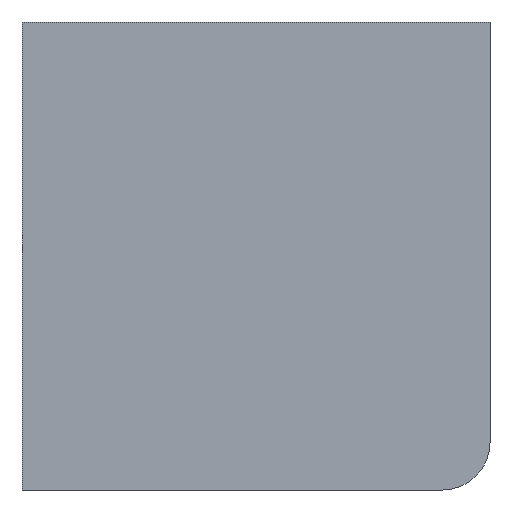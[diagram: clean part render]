
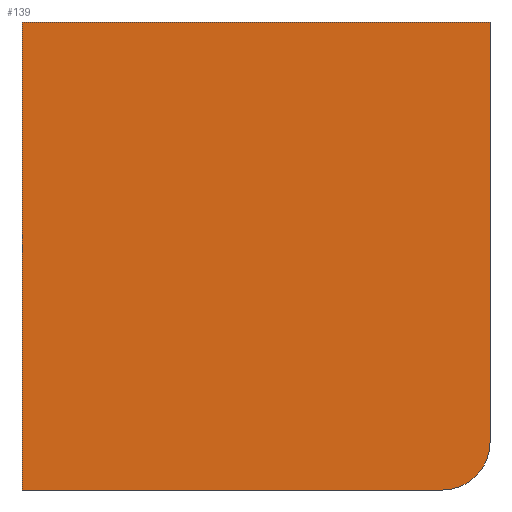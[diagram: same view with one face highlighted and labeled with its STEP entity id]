
A CAD part, front view. The second image highlights one B-rep face of the part: STEP entity #139.
In plain terms, the highlighted planar face has unit normal (0, -1, 0).
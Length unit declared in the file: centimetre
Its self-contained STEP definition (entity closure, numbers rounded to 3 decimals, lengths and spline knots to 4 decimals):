
#27 = CARTESIAN_POINT ( 'NONE',  ( 897.8581, 0., 0. ) ) ;
#46 = EDGE_CURVE ( 'NONE', #1322, #154, #1020, .T. ) ;
#68 = VERTEX_POINT ( 'NONE', #691 ) ;
#84 = DIRECTION ( 'NONE',  ( 0., 0., -1. ) ) ;
#124 = EDGE_CURVE ( 'NONE', #509, #68, #839, .T. ) ;
#139 = ADVANCED_FACE ( 'NONE', ( #1150 ), #849, .F. ) ;
#154 = VERTEX_POINT ( 'NONE', #27 ) ;
#227 = CARTESIAN_POINT ( 'NONE',  ( 0., 0., 1000. ) ) ;
#277 = DIRECTION ( 'NONE',  ( 0., -1., 0. ) ) ;
#366 = EDGE_LOOP ( 'NONE', ( #785, #979, #934, #416, #837 ) ) ;
#405 = VECTOR ( 'NONE', #883, 100. ) ;
#416 = ORIENTED_EDGE ( 'NONE', *, *, #124, .F. ) ;
#417 = DIRECTION ( 'NONE',  ( 0., 0., 1. ) ) ;
#431 = EDGE_CURVE ( 'NONE', #509, #1322, #1012, .T. ) ;
#443 = CARTESIAN_POINT ( 'NONE',  ( 1000., 0., 102.1419 ) ) ;
#446 = EDGE_CURVE ( 'NONE', #154, #592, #862, .T. ) ;
#509 = VERTEX_POINT ( 'NONE', #1249 ) ;
#526 = DIRECTION ( 'NONE',  ( 0., 0., 1. ) ) ;
#592 = VERTEX_POINT ( 'NONE', #443 ) ;
#618 = VECTOR ( 'NONE', #1325, 100. ) ;
#671 = LINE ( 'NONE', #1169, #405 ) ;
#691 = CARTESIAN_POINT ( 'NONE',  ( 1000., 0., 1000. ) ) ;
#734 = CARTESIAN_POINT ( 'NONE',  ( 0., 0., 1000. ) ) ;
#751 = VECTOR ( 'NONE', #84, 100. ) ;
#785 = ORIENTED_EDGE ( 'NONE', *, *, #46, .T. ) ;
#818 = CARTESIAN_POINT ( 'NONE',  ( 0., 0., 0. ) ) ;
#834 = CARTESIAN_POINT ( 'NONE',  ( 0., 0., 0. ) ) ;
#837 = ORIENTED_EDGE ( 'NONE', *, *, #431, .T. ) ;
#839 = LINE ( 'NONE', #734, #880 ) ;
#849 = PLANE ( 'NONE',  #920 ) ;
#862 = CIRCLE ( 'NONE', #1088, 102.1419 ) ;
#880 = VECTOR ( 'NONE', #1264, 100. ) ;
#883 = DIRECTION ( 'NONE',  ( 0., 0., -1. ) ) ;
#920 = AXIS2_PLACEMENT_3D ( 'NONE', #227, #937, #526 ) ;
#934 = ORIENTED_EDGE ( 'NONE', *, *, #976, .F. ) ;
#937 = DIRECTION ( 'NONE',  ( 0., 1., 0. ) ) ;
#976 = EDGE_CURVE ( 'NONE', #68, #592, #671, .T. ) ;
#979 = ORIENTED_EDGE ( 'NONE', *, *, #446, .T. ) ;
#1012 = LINE ( 'NONE', #1116, #751 ) ;
#1020 = LINE ( 'NONE', #818, #618 ) ;
#1088 = AXIS2_PLACEMENT_3D ( 'NONE', #1199, #277, #417 ) ;
#1116 = CARTESIAN_POINT ( 'NONE',  ( 0., 0., 1000. ) ) ;
#1150 = FACE_OUTER_BOUND ( 'NONE', #366, .T. ) ;
#1169 = CARTESIAN_POINT ( 'NONE',  ( 1000., 0., 1000. ) ) ;
#1199 = CARTESIAN_POINT ( 'NONE',  ( 897.8581, 0., 102.1419 ) ) ;
#1249 = CARTESIAN_POINT ( 'NONE',  ( 0., 0., 1000. ) ) ;
#1264 = DIRECTION ( 'NONE',  ( 1., 0., 0. ) ) ;
#1322 = VERTEX_POINT ( 'NONE', #834 ) ;
#1325 = DIRECTION ( 'NONE',  ( 1., 0., 0. ) ) ;
